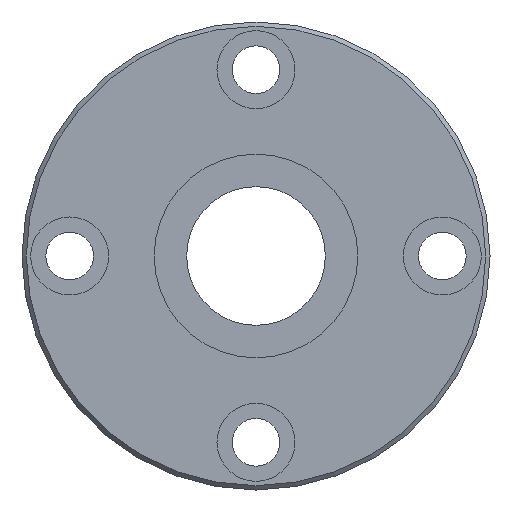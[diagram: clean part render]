
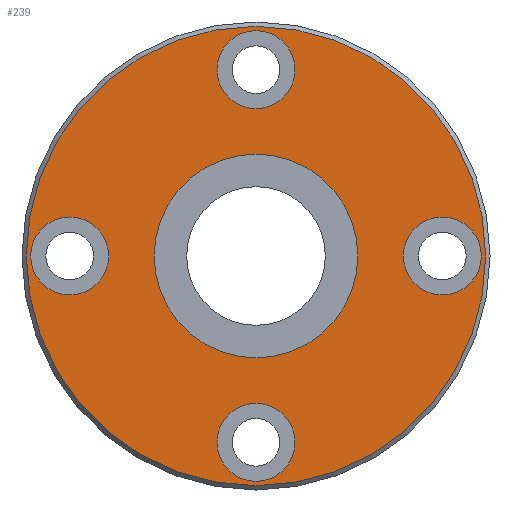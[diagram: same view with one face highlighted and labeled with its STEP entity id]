
A CAD part, left-side view. The second image highlights one B-rep face of the part: STEP entity #239.
In plain terms, the highlighted planar face has unit normal (-1, 0, 0).
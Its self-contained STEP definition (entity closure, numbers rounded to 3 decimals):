
#164=CARTESIAN_POINT('',(0.0,0.,26.5));
#165=VERTEX_POINT('',#164);
#166=CARTESIAN_POINT('',(0.0,0.0,0.0));
#167=DIRECTION('',(1.0,0.0,0.0));
#168=DIRECTION('',(0.0,0.0,-1.0));
#169=AXIS2_PLACEMENT_3D('',#166,#167,#168);
#170=CIRCLE('',#169,26.5);
#171=EDGE_CURVE('',#165,#165,#170,.T.);
#176=CARTESIAN_POINT('',(0.0,0.0,13.875));
#177=DIRECTION('',(-1.0,0.0,0.0));
#178=DIRECTION('',(0.0,0.0,1.0));
#179=AXIS2_PLACEMENT_3D('',#176,#177,#178);
#180=PLANE('',#179);
#181=ORIENTED_EDGE('',*,*,#171,.F.);
#182=EDGE_LOOP('',(#181));
#183=FACE_OUTER_BOUND('',#182,.T.);
#184=CARTESIAN_POINT('',(0.0,0.0,11.75));
#185=VERTEX_POINT('',#184);
#186=CARTESIAN_POINT('',(0.0,0.0,0.0));
#187=DIRECTION('',(-1.0,0.0,0.0));
#188=DIRECTION('',(0.0,0.0,1.0));
#189=AXIS2_PLACEMENT_3D('',#186,#187,#188);
#190=CIRCLE('',#189,11.75);
#191=EDGE_CURVE('',#185,#185,#190,.T.);
#192=ORIENTED_EDGE('',*,*,#191,.F.);
#193=EDGE_LOOP('',(#192));
#194=FACE_BOUND('',#193,.T.);
#195=CARTESIAN_POINT('',(0.0,-17.0,0.));
#196=VERTEX_POINT('',#195);
#197=CARTESIAN_POINT('',(0.0,-21.5,0.));
#198=DIRECTION('',(1.0,0.0,0.0));
#199=DIRECTION('',(0.0,1.0,0.0));
#200=AXIS2_PLACEMENT_3D('',#197,#198,#199);
#201=CIRCLE('',#200,4.5);
#202=EDGE_CURVE('',#196,#196,#201,.T.);
#203=ORIENTED_EDGE('',*,*,#202,.T.);
#204=EDGE_LOOP('',(#203));
#205=FACE_BOUND('',#204,.T.);
#206=CARTESIAN_POINT('',(0.0,26.0,0.));
#207=VERTEX_POINT('',#206);
#208=CARTESIAN_POINT('',(0.0,21.5,0.));
#209=DIRECTION('',(1.0,0.0,0.0));
#210=DIRECTION('',(0.0,1.0,0.0));
#211=AXIS2_PLACEMENT_3D('',#208,#209,#210);
#212=CIRCLE('',#211,4.5);
#213=EDGE_CURVE('',#207,#207,#212,.T.);
#214=ORIENTED_EDGE('',*,*,#213,.T.);
#215=EDGE_LOOP('',(#214));
#216=FACE_BOUND('',#215,.T.);
#217=CARTESIAN_POINT('',(0.0,4.5,21.5));
#218=VERTEX_POINT('',#217);
#219=CARTESIAN_POINT('',(0.0,0.,21.5));
#220=DIRECTION('',(1.0,0.0,0.0));
#221=DIRECTION('',(0.0,1.0,0.0));
#222=AXIS2_PLACEMENT_3D('',#219,#220,#221);
#223=CIRCLE('',#222,4.5);
#224=EDGE_CURVE('',#218,#218,#223,.T.);
#225=ORIENTED_EDGE('',*,*,#224,.T.);
#226=EDGE_LOOP('',(#225));
#227=FACE_BOUND('',#226,.T.);
#228=CARTESIAN_POINT('',(0.0,4.5,-21.5));
#229=VERTEX_POINT('',#228);
#230=CARTESIAN_POINT('',(0.0,0.,-21.5));
#231=DIRECTION('',(1.0,0.0,0.0));
#232=DIRECTION('',(0.0,1.0,0.0));
#233=AXIS2_PLACEMENT_3D('',#230,#231,#232);
#234=CIRCLE('',#233,4.5);
#235=EDGE_CURVE('',#229,#229,#234,.T.);
#236=ORIENTED_EDGE('',*,*,#235,.T.);
#237=EDGE_LOOP('',(#236));
#238=FACE_BOUND('',#237,.T.);
#239=ADVANCED_FACE('',(#183,#194,#205,#216,#227,#238),#180,.T.);
